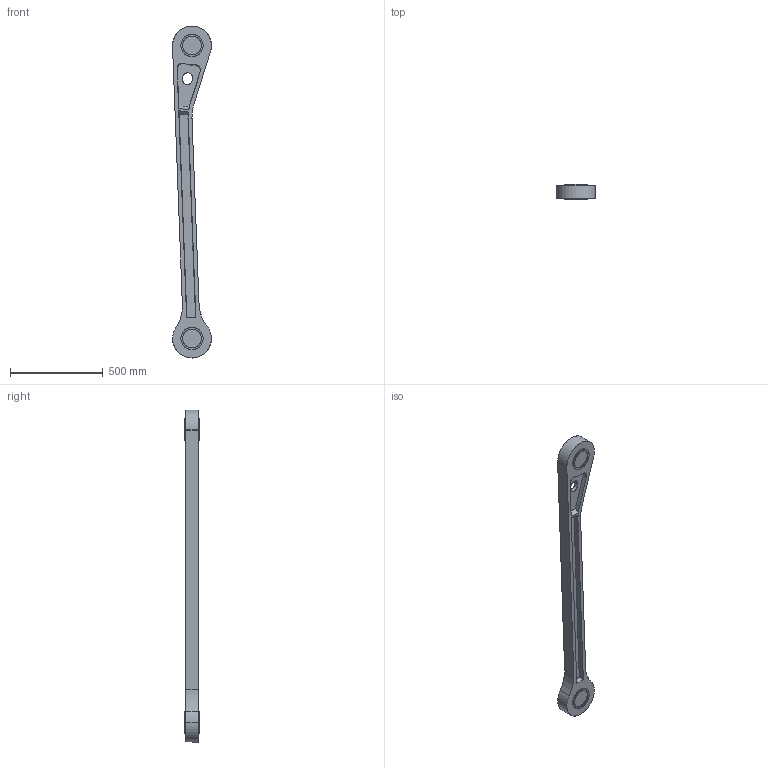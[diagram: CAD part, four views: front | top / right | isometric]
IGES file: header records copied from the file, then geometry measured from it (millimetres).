
Start section: SolidWorks IGES file using analytic representation for surfaces
Global section: file name: B:\DM\Robotics\SEROP_PROJ\Product Development\DevelopmentProjects\HD\3_Design PRMD\4_Struktur SAP o CAD\Lättmodeller\IRB8700-SW6_800-350\IRB8700-SW6_800-350_IRC5_IGES_j\IRB8700-SW6_800-350_IRC5_rev00_LINKBAR_CAD.IGS; native system: SolidWorks 2014; preprocessor: SolidWorks 2014; author: sepehak; date: 150605.110217; units: millimetre
Bounding box: 210 x 80 x 1790 mm (x, y, z)
Surface area: 854467.6 mm2 (no closed solid volume)
Topology: 0 solids, 0 shells, 73 faces, 1856 edges, 1856 vertices
Faces by surface type: revolution 38, bspline 35
